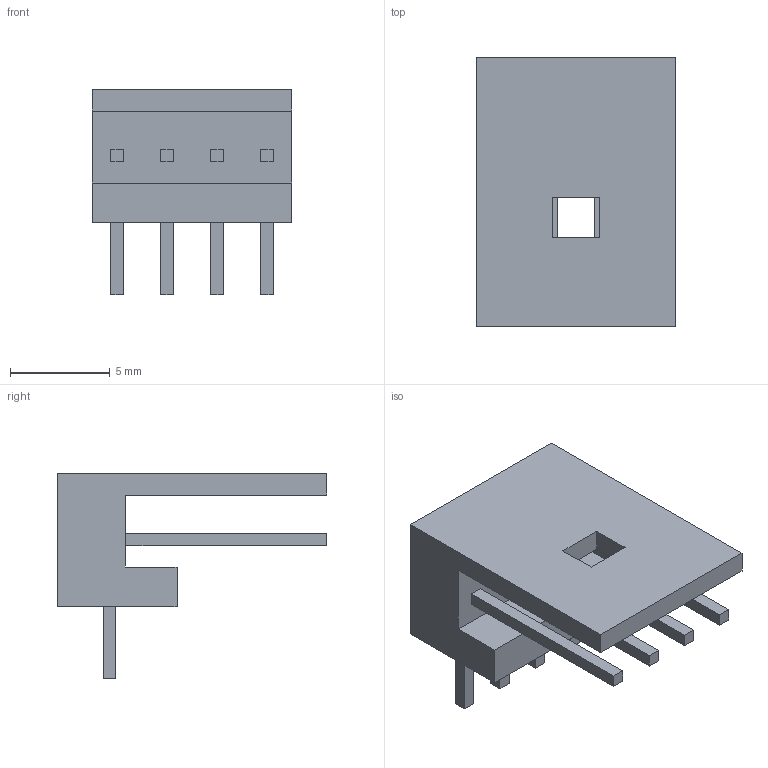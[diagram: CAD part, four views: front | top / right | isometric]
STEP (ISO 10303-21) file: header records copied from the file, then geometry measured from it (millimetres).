
FILE_DESCRIPTION(('Open CASCADE Model'),'2;1');
FILE_NAME('Open CASCADE Shape Model','2026-11-07T22:32:47',('Author'),( 'Open CASCADE'),'Open CASCADE STEP processor 7.9','Open CASCADE 7.9' ,'Unknown');
FILE_SCHEMA(('AUTOMOTIVE_DESIGN { 1 0 10303 214 1 1 1 1 }'));
Length unit declared in the file: millimetre
Products named in the file (6): 1112c8fc-db25-11f1-a0b1-bfd383289f4f; TE1718264-floppy-power-body; TE1718264-pin-1; TE1718264-pin-2; TE1718264-pin-3; TE1718264-pin-4
Assembly tree (5 placements, depth 2):
  1112c8fc-db25-11f1-a0b1-bfd383289f4f
    TE1718264-floppy-power-body
    TE1718264-pin-1
    TE1718264-pin-2
    TE1718264-pin-3
    TE1718264-pin-4
Bounding box: 10 x 13.5 x 10.3 mm (x, y, z)
Volume: 408.8 mm3; surface area: 759.7 mm2
Topology: 5 solids, 5 shells, 70 faces, 180 edges, 120 vertices
Faces by surface type: plane 70
Entity records: 4480 total; most frequent: CARTESIAN_POINT 834, DIRECTION 594, LINE 442, VECTOR 442, ORIENTED_EDGE 360, PCURVE 360, DEFINITIONAL_REPRESENTATION 360, EDGE_CURVE 180
